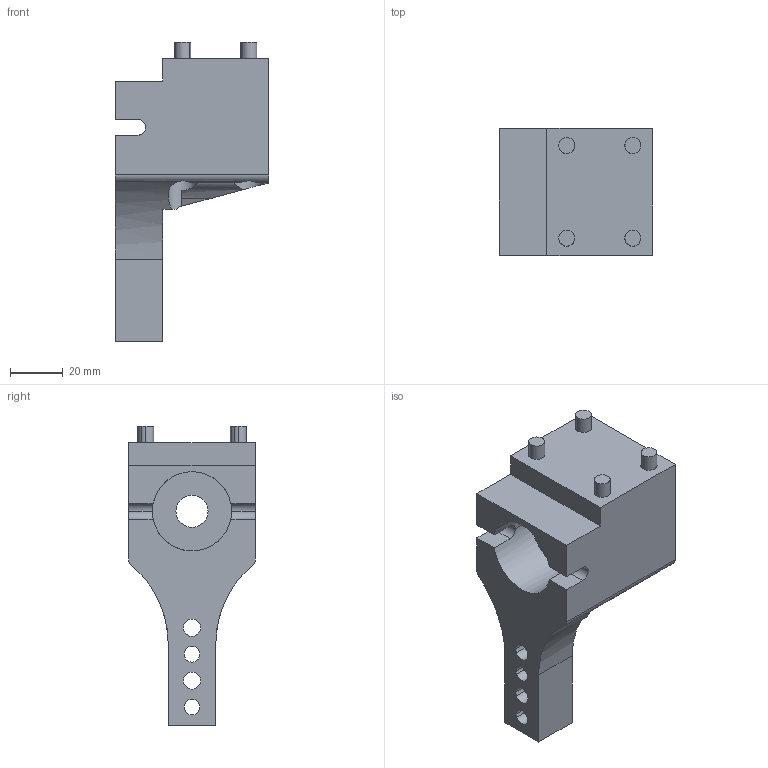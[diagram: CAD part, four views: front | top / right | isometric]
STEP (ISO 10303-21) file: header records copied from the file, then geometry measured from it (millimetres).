
FILE_DESCRIPTION(('STEP AP214'),'1');
FILE_NAME('EGT174_1705132_RD30_K40_VU.CATPart.stp','2015-09-14T13:10:53',('3D-Tool'),(' '),'Spatial InterOp 3D',' ',' ');
FILE_SCHEMA(('automotive_design'));
Length unit declared in the file: millimetre
Products named in the file (5): EGT174_1705132_RD30_K40_VU|EGT174_RD30_K40_VU|Bohrbearbeitung; 1; 2; 3; 4
Bounding box: 58 x 48 x 113.1 mm (x, y, z)
Volume: 122227.7 mm3; surface area: 33396.7 mm2
Topology: 5 solids, 5 shells, 177 faces, 478 edges, 318 vertices
Faces by surface type: cylinder 105, plane 72
Entity records: 7520 total; most frequent: CARTESIAN_POINT 1377, DIRECTION 992, ORIENTED_EDGE 956, EDGE_CURVE 478, AXIS2_PLACEMENT_3D 375, VERTEX_POINT 318, LINE 242, VECTOR 242
